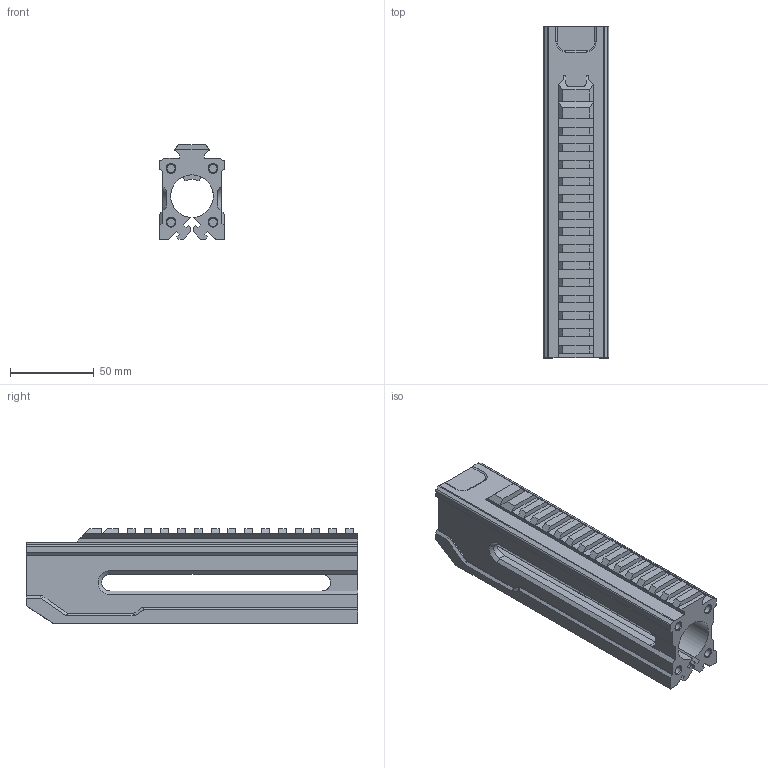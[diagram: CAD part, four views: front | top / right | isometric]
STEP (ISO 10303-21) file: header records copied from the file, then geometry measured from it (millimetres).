
FILE_DESCRIPTION(('HOOPS Exchange Step'),'2;1');
FILE_NAME('/private/var/mobile/Containers/Data/Application/CF5FE49D-83C9-4FF2-81F6-0AAB70978F0F/tmp/export/temp_export','2026-08-30T21:22:37+19:00',('mobile'),('Shapr3D Limited'),'HOOPS Exchange 2026.3','Shapr3D','Authorized');
FILE_SCHEMA( ('AP242_MANAGED_MODEL_BASED_3D_ENGINEERING_MIM_LF {1 0 10303 442 1 1 4}') );
Length unit declared in the file: millimetre
Products named in the file (4): Upper hand guard; DONE; HG Top Mid.step; root
Assembly tree (3 placements, depth 4):
  root
    HG Top Mid.step
      DONE
        Upper hand guard
Bounding box: 39.02 x 197.7 x 56.57 mm (x, y, z)
Volume: 221526.6 mm3; surface area: 65323 mm2
Topology: 1 solids, 1 shells, 216 faces, 605 edges, 398 vertices
Faces by surface type: plane 158, cylinder 46, cone 10, torus 2
Full cylindrical faces by diameter (mm): 4.9 x8
Entity records: 7245 total; most frequent: CARTESIAN_POINT 1593, ORIENTED_EDGE 1210, DIRECTION 1085, EDGE_CURVE 605, VECTOR 485, LINE 485, VERTEX_POINT 398, AXIS2_PLACEMENT_3D 300
